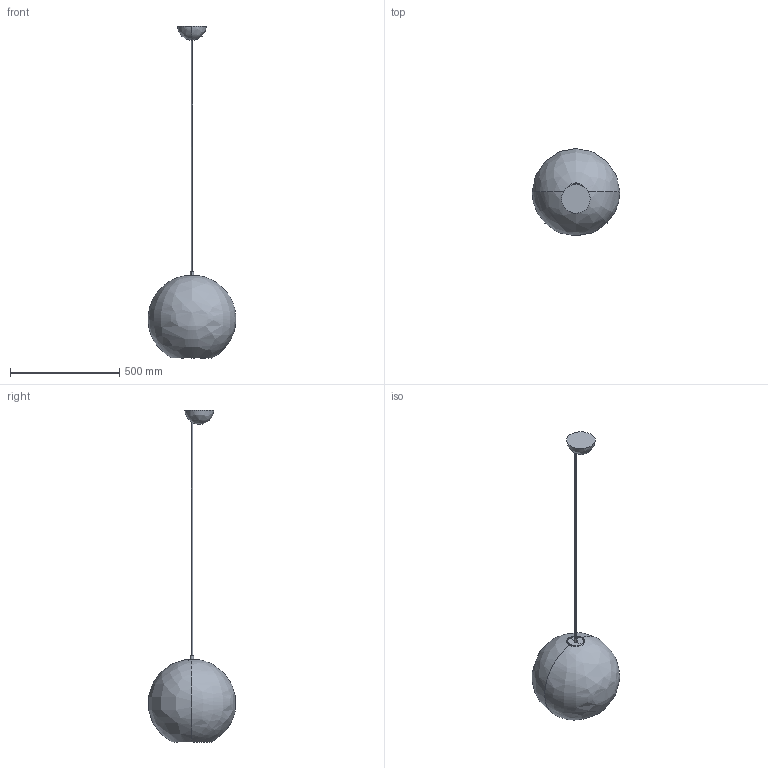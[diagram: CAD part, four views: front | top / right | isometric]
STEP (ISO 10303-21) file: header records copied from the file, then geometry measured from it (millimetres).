
FILE_DESCRIPTION(/* description */ (''),/* implementation_level */ '2;1');
FILE_NAME(/* name */ 'aggregato sferico d40',/* time_stamp */ '2016-05-16T10:35:19+02:00',/* author */ (''),/* organization */ (''),/* preprocessor_version */ 'ST-DEVELOPER v10',/* originating_system */ '',/* authorisation */ '');
FILE_SCHEMA (('CONFIG_CONTROL_DESIGN'));
Length unit declared in the file: millimetre
Products named in the file (2): 1; 2
Assembly tree (1 placements, depth 2):
  1
    2
Bounding box: 401.72 x 397.86 x 1518.92 mm (x, y, z)
Volume: 597470.8 mm3; surface area: 588247.8 mm2
Topology: 1 solids, 10 shells, 31 faces, 72 edges, 46 vertices
Faces by surface type: bspline 20, plane 11
Entity records: 1291 total; most frequent: CARTESIAN_POINT 723, ORIENTED_EDGE 110, EDGE_CURVE 68, VERTEX_POINT 46, ADVANCED_FACE 31, FACE_OUTER_BOUND 31, EDGE_LOOP 31, DIRECTION 23
